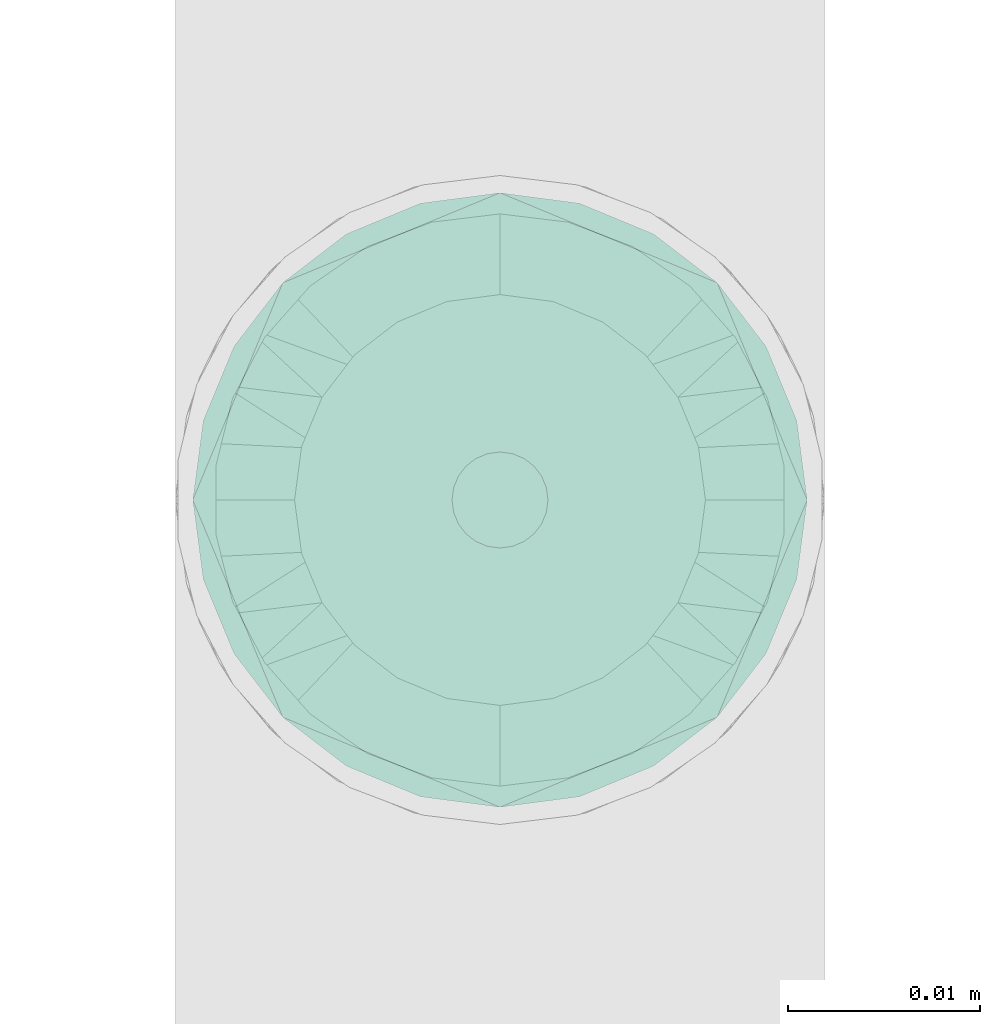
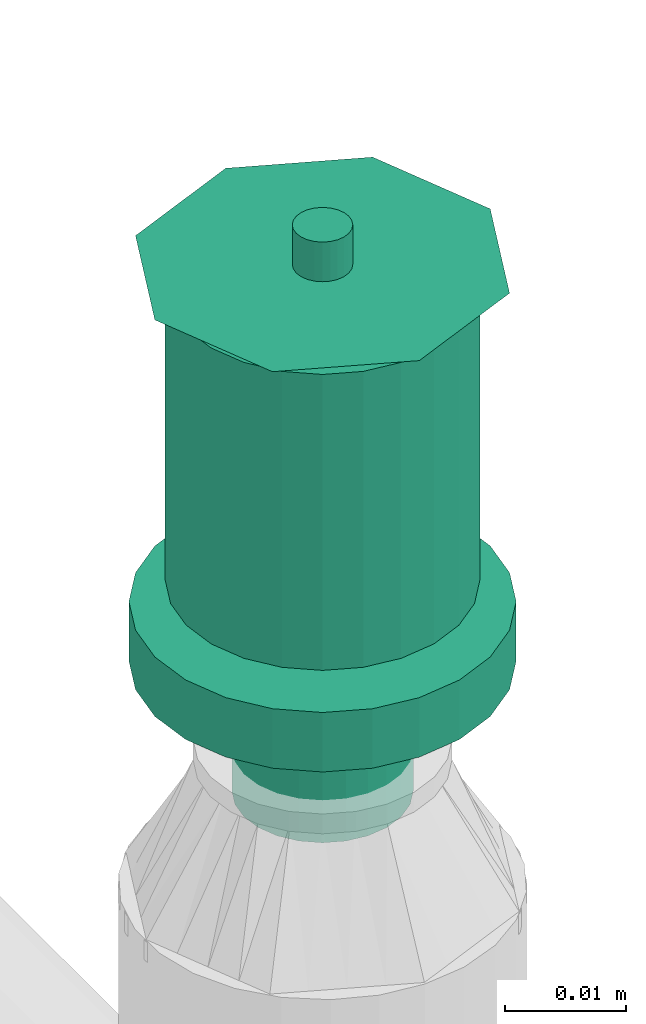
# One storey, part 15 of 31: 1 flow terminal.
"""IFC2X3 building model written with IfcOpenShell, lengths in millimetres."""

from ifc_helpers import new_model, entity, si_unit, converted_unit, derived_unit, direction, frame, origin_with_axes, place, context, subcontext, project, spatial, open_shell, surface_model, source, transform, mapped, type_object, element, save


model = new_model("IFC2X3")

# Units and contexts
model_context = context("Model", 3, precision=0.01, world=frame((0.0, 4.29681676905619e-09, 0.0)), true_north=direction((4.01073788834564e-13, 1.0)))
plan_context = context("Plan", 3, precision=0.01, world=frame((0.0, 4.29681676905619e-09, 0.0)), true_north=direction((4.01073788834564e-13, 1.0)))
body_context = subcontext(model_context, "Body", "Model", "MODEL_VIEW")
ifc_project = project(units=[converted_unit("PLANEANGLEUNIT", "DEGREE", entity("IfcPositiveLengthMeasure", 0.0174532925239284), si_unit("PLANEANGLEUNIT", "RADIAN"), dimensions=[0, 0, 0, 0, 0, 0, 0]), si_unit("AREAUNIT", "SQUARE_METRE"), si_unit("LENGTHUNIT", "METRE", prefix="MILLI"), si_unit("MASSUNIT", "GRAM", prefix="KILO"), si_unit("POWERUNIT", "WATT"), si_unit("PRESSUREUNIT", "PASCAL", prefix="KILO"), si_unit("FORCEUNIT", "NEWTON", prefix="KILO"), si_unit("ELECTRICVOLTAGEUNIT", "VOLT"), si_unit("ELECTRICCURRENTUNIT", "AMPERE"), si_unit("THERMODYNAMICTEMPERATUREUNIT", "DEGREE_CELSIUS"), si_unit("TIMEUNIT", "SECOND"), si_unit("VOLUMEUNIT", "CUBIC_METRE"), derived_unit("LINEARVELOCITYUNIT", [(si_unit("LENGTHUNIT", "METRE"), 1), (si_unit("TIMEUNIT", "SECOND"), -1)]), derived_unit("VOLUMETRICFLOWRATEUNIT", [(si_unit("VOLUMEUNIT", "CUBIC_METRE"), 1), (si_unit("TIMEUNIT", "SECOND"), -1)]), derived_unit("THERMALTRANSMITTANCEUNIT", [(si_unit("POWERUNIT", "WATT"), 1), (si_unit("THERMODYNAMICTEMPERATUREUNIT", "KELVIN"), -1), (si_unit("AREAUNIT", "SQUARE_METRE"), -1)]), derived_unit("SOUNDPRESSUREUNIT", [(si_unit("PRESSUREUNIT", "PASCAL"), 1)])], contexts=[model_context, plan_context])

# Site, building, storey
site_placement = place(None, frame((0.0, -4.29681676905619e-09, 0.0), z_axis=(0.0, 0.0, 1.0), x_axis=(1.0, 0.0, 0.0)))
site = spatial("IfcSite", under=ifc_project, at=site_placement, CompositionType="ELEMENT")
building_placement = place(site_placement, frame((0.0, 4.29681676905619e-09, 0.0), z_axis=(0.0, 0.0, 1.0), x_axis=(1.0, 0.0, 0.0)))
building = spatial("IfcBuilding", under=site, at=building_placement, Name="mc-building", CompositionType="ELEMENT")
storey_placement = place(building_placement, frame((0.0, 0.0, 200300.0), z_axis=(0.0, 0.0, 1.0), x_axis=(1.0, 0.0, 0.0)))
storey = spatial("IfcBuildingStorey", under=building, at=storey_placement, Name="Nivå C", CompositionType="ELEMENT", Elevation=200300.0)

# Flow terminal
fire_suppression_terminal_type = type_object("IfcFireSuppressionTerminalType", Name="68DGR-STD-STÅENDE", PredefinedType="NOTDEFINED")
shared_shape = source(origin_with_axes(), body_context, "Body", "SurfaceModel", [
    surface_model("IfcShellBasedSurfaceModel", [(12.55704, 3.36465, 21.14766), (13.0, 0.0, 21.14766), (12.55704, -3.36465, 21.14766), (-12.55704, -3.36465, 21.14766), (-11.25833, -6.5, 21.14766), (-11.25833, -6.5, 51.0), (3.36465, -12.55704, 51.0), (3.36465, -12.55704, 21.14766), (6.5, -11.25833, 21.14766), (9.19239, -9.19239, 21.14766), (11.25833, -6.5, 21.14766), (9.19239, -9.19239, 51.0), (6.5, -11.25833, 51.0), (11.25833, -6.5, 51.0), (12.55704, -3.36465, 51.0), (13.0, 0.0, 51.0), (9.19239, 9.19239, 51.0), (11.25833, 6.5, 21.14766), (9.19239, 9.19239, 21.14766), (11.25833, 6.5, 51.0), (12.55704, 3.36465, 51.0), (6.5, 11.25833, 51.0), (6.5, 11.25833, 21.14766), (3.36465, 12.55704, 21.14766), (3.36465, 12.55704, 51.0), (-11.25833, 6.5, 51.0), (-11.25833, 6.5, 21.14766), (-12.55704, 3.36465, 21.14766), (0.0, -2.5, 51.0), (-2.5, 0.0, 51.0), (0.0, 2.5, 51.0), (2.5, 0.0, 51.0), (11.31371, 11.31371, 53.0), (-11.31371, 11.31371, 53.0), (-11.31371, -11.31371, 53.0), (11.31371, -11.31371, 53.0), (1.62635, 1.62635, 51.0), (2.16506, 1.25, 51.0), (1.99186, 1.15, 51.0), (-1.76777, 1.76777, 51.0), (-1.25, 2.16506, 51.0), (-1.62635, 1.62635, 51.0), (1.99186, -1.15, 51.0), (2.16506, -1.25, 51.0), (1.62635, -1.62635, 51.0), (-1.62635, -1.62635, 51.0), (-1.25, -2.16506, 51.0), (-1.76777, -1.76777, 51.0), (0.0, 7.3, 0.0), (1.94114, 7.24444, 0.0), (1.88938, 7.05126, 0.0), (5.16188, 5.16188, 0.0), (6.49519, 3.75, 0.0), (6.32199, 3.65, 0.0), (-5.3033, 5.3033, 0.0), (-3.75, 6.49519, 0.0), (-5.16188, 5.16188, 0.0), (6.32199, -3.65, 0.0), (6.49519, -3.75, 0.0), (5.16188, -5.16188, 0.0), (1.88938, -7.05126, 0.0), (1.94114, -7.24444, 0.0), (0.0, -7.3, 0.0), (-5.16188, -5.16188, 0.0), (-3.75, -6.49519, 0.0), (-5.3033, -5.3033, 0.0), (-3.36465, 12.55704, 51.0), (-6.5, 11.25833, 51.0), (0.0, 13.0, 51.0), (-9.19239, 9.19239, 51.0), (0.0, -13.0, 51.0), (-9.19239, -9.19239, 51.0), (-12.55704, -3.36465, 51.0), (-6.5, -11.25833, 51.0), (-3.36465, -12.55704, 51.0), (-7.5, 0.0, -0.1), (-7.24444, 1.94114, 0.1), (-7.24444, 1.94114, -0.1), (-6.49519, 3.75, 0.1), (-6.49519, 3.75, -0.1), (-3.75, 6.49519, -0.1), (-5.3033, 5.3033, -0.1), (-3.75, 6.49519, 0.1), (-5.3033, 5.3033, 0.1), (-1.94114, 7.24444, -0.1), (-1.94114, 7.24444, 0.1), (-7.5, 0.0, 0.1), (0.0, 7.5, 0.1), (0.0, 7.5, -0.1), (1.94114, 7.24444, 0.1), (1.94114, 7.24444, -0.1), (3.75, 6.49519, 0.1), (3.75, 6.49519, -0.1), (6.49519, 3.75, -0.1), (5.3033, 5.3033, -0.1), (6.49519, 3.75, 0.1), (5.3033, 5.3033, 0.1), (7.24444, 1.94114, -0.1), (7.24444, 1.94114, 0.1), (7.5, 0.0, 0.1), (7.5, 0.0, -0.1), (-7.24444, -1.94114, 0.1), (7.24444, -1.94114, 0.1), (5.3033, -5.3033, 0.1), (6.49519, -3.75, 0.1), (-6.49519, -3.75, 0.1), (0.0, -7.5, 0.1), (1.94114, -7.24444, 0.1), (3.75, -6.49519, 0.1), (-3.75, -6.49519, 0.1), (-1.94114, -7.24444, 0.1), (-5.3033, -5.3033, 0.1), (0.0, -7.5, -0.1), (-6.49519, -3.75, -0.1), (1.94114, -7.24444, -0.1), (3.75, -6.49519, -0.1), (5.3033, -5.3033, -0.1), (7.24444, -1.94114, -0.1), (6.49519, -3.75, -0.1), (-3.75, -6.49519, -0.1), (-5.3033, -5.3033, -0.1), (-1.94114, -7.24444, -0.1), (-7.24444, -1.94114, -0.1), (16.0, 0.0, 53.0), (0.0, -16.0, 53.0), (-16.0, 0.0, 53.0), (0.0, 16.0, 53.0), (0.64705, 2.41481, 57.0), (0.0, 2.5, 57.0), (1.25, 2.16506, 57.0), (-2.5, 0.0, 57.0), (1.76777, 1.76777, 57.0), (2.41481, 0.64705, 57.0), (2.16506, 1.25, 57.0), (-0.64705, 2.41481, 57.0), (-1.25, 2.16506, 57.0), (-1.76777, 1.76777, 57.0), (-2.16506, 1.25, 57.0), (-2.41481, 0.64705, 57.0), (2.5, 0.0, 57.0), (1.76777, -1.76777, 57.0), (2.16506, -1.25, 57.0), (2.41481, -0.64705, 57.0), (-2.41481, -0.64705, 57.0), (0.64705, -2.41481, 57.0), (1.25, -2.16506, 57.0), (0.0, -2.5, 57.0), (-1.76777, -1.76777, 57.0), (-2.16506, -1.25, 57.0), (-1.25, -2.16506, 57.0), (-0.64705, -2.41481, 57.0), (1.15, -1.99186, 51.0), (1.76777, -1.76777, 51.0), (1.25, -2.16506, 51.0), (0.59528, -2.22163, 51.0), (0.0, -2.3, 51.0), (0.64705, -2.41481, 51.0), (2.22163, -0.59528, 51.0), (2.3, 0.0, 51.0), (2.41481, -0.64705, 51.0), (-0.64705, -2.41481, 51.0), (-0.59528, -2.22163, 51.0), (-1.15, -1.99186, 51.0), (-2.16506, -1.25, 51.0), (-1.99186, -1.15, 51.0), (-2.22163, -0.59528, 51.0), (-2.3, 0.0, 51.0), (-2.41481, -0.64705, 51.0), (2.22163, 0.59528, 51.0), (2.41481, 0.64705, 51.0), (1.76777, 1.76777, 51.0), (1.15, 1.99186, 51.0), (1.25, 2.16506, 51.0), (0.59528, 2.22163, 51.0), (0.0, 2.3, 51.0), (0.64705, 2.41481, 51.0), (-1.99186, 1.15, 51.0), (-2.16506, 1.25, 51.0), (-2.41481, 0.64705, 51.0), (-2.22163, 0.59528, 51.0), (-0.64705, 2.41481, 51.0), (-0.59528, 2.22163, 51.0), (-1.15, 1.99186, 51.0), (-2.22163, 0.59528, 56.8), (-1.99186, 1.15, 56.8), (-1.15, 1.99186, 56.8), (-1.62635, 1.62635, 56.8), (-0.59528, 2.22163, 56.8), (-2.3, 0.0, 56.8), (0.0, 2.3, 56.8), (0.59528, 2.22163, 56.8), (1.15, 1.99186, 56.8), (1.99186, 1.15, 56.8), (1.62635, 1.62635, 56.8), (2.22163, 0.59528, 56.8), (2.3, 0.0, 56.8), (2.22163, -0.59528, 56.8), (1.99186, -1.15, 56.8), (1.62635, -1.62635, 56.8), (1.15, -1.99186, 56.8), (0.59528, -2.22163, 56.8), (0.0, -2.3, 56.8), (-1.99186, -1.15, 56.8), (-2.22163, -0.59528, 56.8), (-1.62635, -1.62635, 56.8), (-0.59528, -2.22163, 56.8), (-1.15, -1.99186, 56.8), (8.0, -13.85641, 13.0), (4.1411, -15.45481, 13.0), (0.0, -16.0, 13.0), (-4.1411, -15.45481, 13.0), (15.45481, -4.1411, 13.0), (13.85641, -8.0, 13.0), (11.31371, -11.31371, 13.0), (-16.0, 0.0, 13.0), (-8.0, -13.85641, 13.0), (-11.31371, -11.31371, 13.0), (-13.85641, -8.0, 13.0), (-15.45481, -4.1411, 13.0), (15.45481, 4.1411, 13.0), (4.1411, 15.45481, 13.0), (13.85641, 8.0, 13.0), (8.0, 13.85641, 13.0), (11.31371, 11.31371, 13.0), (-15.45481, 4.1411, 13.0), (-11.31371, 11.31371, 13.0), (-8.0, 13.85641, 13.0), (-13.85641, 8.0, 13.0), (-4.1411, 15.45481, 13.0), (0.0, 16.0, 13.0), (16.0, 0.0, 13.0), (7.05126, 1.88938, 12.8), (1.88938, 7.05126, 12.8), (3.65, 6.32199, 12.8), (6.32199, 3.65, 12.8), (5.16188, 5.16188, 12.8), (7.3, 0.0, 12.8), (0.0, 7.3, 12.8), (-3.65, 6.32199, 12.8), (-1.88938, 7.05126, 12.8), (-5.16188, 5.16188, 12.8), (-7.05126, 1.88938, 12.8), (-6.32199, 3.65, 12.8), (7.05126, -1.88938, 12.8), (0.0, -7.3, 12.8), (6.32199, -3.65, 12.8), (3.65, -6.32199, 12.8), (5.16188, -5.16188, 12.8), (1.88938, -7.05126, 12.8), (-7.3, 0.0, 12.8), (-6.32199, -3.65, 12.8), (-7.05126, -1.88938, 12.8), (-1.88938, -7.05126, 12.8), (-5.16188, -5.16188, 12.8), (-3.65, -6.32199, 12.8), (-7.05126, 1.88938, 0.0), (-7.3, 0.0, 0.0), (-6.32199, 3.65, 0.0), (-3.65, 6.32199, 0.0), (-1.88938, 7.05126, 0.0), (3.65, 6.32199, 0.0), (7.05126, 1.88938, 0.0), (7.3, 0.0, 0.0), (3.75, 6.49519, 13.0), (1.94114, 7.24444, 13.0), (7.5, 0.0, 13.0), (5.3033, 5.3033, 13.0), (7.24444, 1.94114, 13.0), (6.49519, 3.75, 13.0), (-5.3033, 5.3033, 13.0), (-7.24444, -1.94114, 13.0), (-1.94114, 7.24444, 13.0), (-3.75, 6.49519, 13.0), (0.0, 7.5, 13.0), (-6.49519, 3.75, 13.0), (-7.24444, 1.94114, 13.0), (7.24444, -1.94114, 13.0), (5.3033, -5.3033, 13.0), (6.49519, -3.75, 13.0), (-6.49519, -3.75, 13.0), (0.0, -7.5, 13.0), (1.94114, -7.24444, 13.0), (3.75, -6.49519, 13.0), (-7.5, 0.0, 13.0), (-3.75, -6.49519, 13.0), (-1.94114, -7.24444, 13.0), (-5.3033, -5.3033, 13.0), (3.65, -6.32199, 0.0), (5.3033, -5.3033, 0.0), (3.75, -6.49519, 0.0), (0.0, -7.5, 0.0), (7.05126, -1.88938, 0.0), (7.24444, -1.94114, 0.0), (7.5, 0.0, 0.0), (-1.94114, -7.24444, 0.0), (-1.88938, -7.05126, 0.0), (-3.65, -6.32199, 0.0), (-6.49519, -3.75, 0.0), (-6.32199, -3.65, 0.0), (-7.05126, -1.88938, 0.0), (-7.24444, -1.94114, 0.0), (-7.5, 0.0, 0.0), (7.24444, 1.94114, 0.0), (5.3033, 5.3033, 0.0), (3.75, 6.49519, 0.0), (0.0, 7.5, 0.0), (-6.49519, 3.75, 0.0), (-7.24444, 1.94114, 0.0), (-1.94114, 7.24444, 0.0), (-12.55704, 3.36465, 51.0), (-13.0, 0.0, 51.0), (0.0, -13.0, 21.14766), (-3.36465, -12.55704, 21.14766), (-6.5, -11.25833, 21.14766), (-9.19239, -9.19239, 21.14766), (-13.0, 0.0, 21.14766), (-9.19239, 9.19239, 21.14766), (-6.5, 11.25833, 21.14766), (-3.36465, 12.55704, 21.14766), (0.0, 13.0, 21.14766), (11.31371, 11.31371, 19.0), (8.0, 13.85641, 19.0), (4.1411, 15.45481, 19.0), (-8.0, 13.85641, 19.0), (16.0, 0.0, 19.0), (15.45481, 4.1411, 19.0), (13.85641, 8.0, 19.0), (-4.1411, 15.45481, 19.0), (0.0, 16.0, 19.0), (-11.31371, 11.31371, 19.0), (-13.85641, 8.0, 19.0), (-15.45481, 4.1411, 19.0), (15.45481, -4.1411, 19.0), (11.31371, -11.31371, 19.0), (13.85641, -8.0, 19.0), (-16.0, 0.0, 19.0), (0.0, -16.0, 19.0), (4.1411, -15.45481, 19.0), (8.0, -13.85641, 19.0), (-13.85641, -8.0, 19.0), (-11.31371, -11.31371, 19.0), (-15.45481, -4.1411, 19.0), (-8.0, -13.85641, 19.0), (-4.1411, -15.45481, 19.0)], [open_shell([[[0, 1, 2]], [[3, 4, 5]], [[6, 7, 8]], [[9, 10, 11]], [[9, 11, 12]], [[10, 13, 11]], [[14, 13, 2]], [[1, 15, 14]], [[16, 17, 18]], [[0, 19, 20]], [[20, 15, 1]], [[21, 16, 18]], [[22, 23, 24]], [[16, 19, 17]], [[25, 26, 27]], [[28, 29, 30]], [[30, 31, 28]], [[31, 30, 32]], [[33, 30, 29]], [[29, 28, 34]], [[35, 28, 31]], [[36, 37, 38]], [[39, 40, 41]], [[42, 43, 44]], [[45, 46, 47]], [[48, 49, 50]], [[51, 52, 53]], [[54, 55, 56]], [[57, 58, 59]], [[60, 61, 62]], [[63, 64, 65]], [[66, 67, 68]], [[67, 24, 68]], [[69, 25, 67]], [[15, 20, 14]], [[70, 6, 12]], [[5, 71, 72]], [[73, 74, 71]], [[72, 71, 74]], [[75, 76, 77]], [[77, 78, 79]], [[80, 81, 82]], [[83, 81, 79]], [[84, 80, 85]], [[76, 78, 77]], [[75, 86, 76]], [[80, 82, 85]], [[82, 81, 83]], [[79, 78, 83]], [[84, 85, 87]], [[87, 88, 84]], [[88, 89, 90]], [[90, 91, 92]], [[93, 94, 95]], [[96, 94, 92]], [[97, 93, 98]], [[91, 96, 92]], [[90, 89, 91]], [[97, 98, 99]], [[98, 93, 95]], [[94, 96, 95]], [[97, 99, 100]], [[87, 89, 88]], [[91, 89, 99]], [[96, 91, 98]], [[91, 99, 98]], [[95, 96, 98]], [[89, 83, 101]], [[85, 82, 87]], [[83, 87, 82]], [[78, 76, 83]], [[89, 87, 83]], [[76, 101, 83]], [[102, 99, 89]], [[103, 104, 102]], [[89, 105, 103]], [[103, 106, 107]], [[108, 103, 107]], [[106, 103, 105]], [[89, 101, 105]], [[101, 76, 86]], [[109, 110, 111]], [[105, 111, 110]], [[106, 105, 110]], [[103, 102, 89]], [[112, 113, 114]], [[115, 114, 116]], [[117, 118, 116]], [[113, 116, 114]], [[116, 113, 117]], [[119, 120, 121]], [[113, 121, 120]], [[121, 113, 112]], [[113, 122, 117]], [[75, 77, 122]], [[100, 117, 122]], [[100, 81, 97]], [[93, 97, 90]], [[90, 92, 94]], [[93, 90, 94]], [[90, 97, 81]], [[79, 81, 77]], [[77, 81, 122]], [[84, 88, 80]], [[81, 80, 88]], [[81, 88, 90]], [[100, 122, 81]], [[100, 102, 117]], [[117, 104, 118]], [[115, 116, 108]], [[103, 116, 118]], [[114, 115, 107]], [[102, 104, 117]], [[100, 99, 102]], [[115, 108, 107]], [[108, 116, 103]], [[118, 104, 103]], [[114, 107, 106]], [[106, 112, 114]], [[112, 110, 121]], [[121, 109, 119]], [[113, 120, 105]], [[111, 120, 119]], [[122, 113, 101]], [[109, 111, 119]], [[121, 110, 109]], [[122, 101, 86]], [[101, 113, 105]], [[120, 111, 105]], [[122, 86, 75]], [[106, 110, 112]], [[31, 123, 35]], [[35, 124, 28]], [[124, 34, 28]], [[29, 34, 125]], [[33, 32, 126]], [[33, 125, 124]], [[124, 32, 33]], [[124, 35, 123]], [[124, 125, 34]], [[123, 32, 124]], [[29, 125, 33]], [[33, 126, 30]], [[126, 32, 30]], [[31, 32, 123]], [[127, 128, 129]], [[129, 130, 131]], [[132, 131, 130]], [[133, 131, 132]], [[130, 129, 128]], [[134, 135, 128]], [[136, 128, 135]], [[137, 138, 136]], [[128, 136, 130]], [[138, 130, 136]], [[139, 132, 130]], [[140, 141, 142]], [[143, 140, 139]], [[144, 140, 143]], [[145, 140, 144]], [[146, 144, 147]], [[139, 130, 143]], [[143, 148, 144]], [[149, 150, 147]], [[144, 148, 147]], [[146, 147, 150]], [[140, 142, 139]], [[151, 152, 153]], [[154, 151, 153]], [[155, 154, 156]], [[153, 156, 154]], [[28, 155, 156]], [[44, 152, 151]], [[157, 158, 159]], [[31, 159, 158]], [[43, 157, 159]], [[152, 44, 43]], [[157, 43, 42]], [[160, 161, 28]], [[161, 155, 28]], [[162, 161, 160]], [[160, 46, 162]], [[162, 46, 45]], [[47, 163, 164]], [[165, 164, 163]], [[45, 47, 164]], [[166, 165, 167]], [[163, 167, 165]], [[29, 166, 167]], [[168, 169, 31]], [[38, 169, 168]], [[169, 38, 37]], [[170, 37, 36]], [[171, 172, 170]], [[173, 172, 171]], [[174, 175, 173]], [[172, 173, 175]], [[30, 175, 174]], [[170, 36, 171]], [[39, 176, 177]], [[41, 176, 39]], [[178, 177, 176]], [[178, 179, 29]], [[176, 179, 178]], [[179, 166, 29]], [[180, 30, 181]], [[182, 180, 181]], [[182, 41, 40]], [[180, 182, 40]], [[181, 30, 174]], [[31, 158, 168]], [[29, 138, 178]], [[178, 137, 177]], [[40, 39, 135]], [[136, 39, 177]], [[180, 40, 134]], [[138, 137, 178]], [[29, 130, 138]], [[40, 135, 134]], [[135, 39, 136]], [[177, 137, 136]], [[180, 134, 128]], [[128, 30, 180]], [[30, 127, 175]], [[175, 129, 172]], [[37, 170, 133]], [[131, 170, 172]], [[169, 37, 132]], [[129, 131, 172]], [[175, 127, 129]], [[169, 132, 139]], [[132, 37, 133]], [[170, 131, 133]], [[169, 139, 31]], [[128, 127, 30]], [[179, 183, 166]], [[176, 184, 179]], [[185, 41, 182]], [[176, 41, 186]], [[187, 182, 181]], [[179, 184, 183]], [[183, 188, 166]], [[187, 185, 182]], [[186, 41, 185]], [[186, 184, 176]], [[189, 187, 181]], [[181, 174, 189]], [[173, 190, 174]], [[171, 191, 173]], [[192, 36, 38]], [[171, 36, 193]], [[194, 38, 168]], [[171, 193, 191]], [[191, 190, 173]], [[195, 194, 168]], [[192, 38, 194]], [[192, 193, 36]], [[158, 195, 168]], [[174, 190, 189]], [[31, 142, 159]], [[159, 141, 43]], [[153, 152, 145]], [[140, 152, 43]], [[156, 153, 144]], [[142, 141, 159]], [[31, 139, 142]], [[153, 145, 144]], [[145, 152, 140]], [[43, 141, 140]], [[156, 144, 146]], [[146, 28, 156]], [[28, 150, 160]], [[160, 149, 46]], [[163, 47, 148]], [[147, 47, 46]], [[167, 163, 143]], [[149, 147, 46]], [[160, 150, 149]], [[167, 143, 130]], [[143, 163, 148]], [[47, 147, 148]], [[167, 130, 29]], [[146, 150, 28]], [[190, 191, 193]], [[190, 193, 195]], [[194, 195, 193]], [[194, 193, 192]], [[190, 195, 186]], [[189, 185, 187]], [[185, 189, 186]], [[186, 183, 184]], [[186, 189, 190]], [[186, 196, 183]], [[186, 195, 196]], [[196, 197, 198]], [[196, 198, 199]], [[199, 200, 201]], [[199, 201, 196]], [[196, 201, 202]], [[188, 202, 203]], [[183, 202, 188]], [[204, 205, 206]], [[205, 204, 202]], [[201, 205, 202]], [[202, 183, 196]], [[157, 196, 158]], [[42, 197, 157]], [[199, 44, 151]], [[42, 44, 198]], [[200, 151, 154]], [[157, 197, 196]], [[196, 195, 158]], [[200, 199, 151]], [[198, 44, 199]], [[198, 197, 42]], [[201, 200, 154]], [[154, 155, 201]], [[161, 205, 155]], [[162, 206, 161]], [[202, 45, 164]], [[162, 45, 204]], [[203, 164, 165]], [[162, 204, 206]], [[206, 205, 161]], [[188, 203, 165]], [[202, 164, 203]], [[202, 204, 45]], [[166, 188, 165]], [[155, 205, 201]], [[207, 208, 209]], [[207, 209, 210]], [[211, 212, 213]], [[213, 207, 214]], [[211, 213, 214]], [[215, 216, 210]], [[217, 210, 216]], [[217, 218, 210]], [[218, 207, 210]], [[218, 214, 207]], [[214, 219, 211]], [[220, 219, 214]], [[221, 219, 220]], [[220, 222, 223]], [[221, 220, 223]], [[214, 224, 220]], [[225, 226, 227]], [[224, 227, 226]], [[228, 229, 226]], [[220, 224, 226]], [[226, 229, 220]], [[219, 230, 211]], [[231, 232, 233]], [[234, 233, 235]], [[231, 236, 232]], [[231, 233, 234]], [[232, 236, 237]], [[237, 238, 239]], [[238, 237, 240]], [[240, 241, 242]], [[240, 237, 236]], [[236, 241, 240]], [[236, 243, 241]], [[244, 243, 245]], [[246, 245, 247]], [[246, 248, 244]], [[246, 244, 245]], [[243, 244, 249]], [[249, 250, 251]], [[250, 249, 252]], [[253, 252, 254]], [[252, 253, 250]], [[249, 244, 252]], [[243, 249, 241]], [[255, 241, 256]], [[257, 242, 255]], [[238, 56, 258]], [[257, 56, 240]], [[239, 258, 259]], [[255, 242, 241]], [[241, 249, 256]], [[239, 238, 258]], [[240, 56, 238]], [[240, 242, 257]], [[237, 239, 259]], [[259, 48, 237]], [[50, 232, 48]], [[260, 233, 50]], [[234, 51, 53]], [[260, 51, 235]], [[231, 53, 261]], [[260, 235, 233]], [[233, 232, 50]], [[236, 231, 261]], [[234, 53, 231]], [[234, 235, 51]], [[262, 236, 261]], [[48, 232, 237]], [[263, 264, 265]], [[266, 263, 267]], [[263, 265, 267]], [[268, 266, 267]], [[264, 269, 270]], [[271, 272, 273]], [[269, 273, 272]], [[274, 275, 269]], [[264, 273, 269]], [[275, 270, 269]], [[276, 265, 264]], [[277, 278, 276]], [[264, 279, 277]], [[277, 280, 281]], [[282, 277, 281]], [[280, 277, 279]], [[264, 270, 279]], [[270, 275, 283]], [[284, 285, 286]], [[279, 286, 285]], [[280, 279, 285]], [[277, 276, 264]], [[287, 288, 289]], [[60, 287, 289]], [[290, 62, 61]], [[289, 61, 60]], [[59, 288, 287]], [[291, 262, 292]], [[293, 292, 262]], [[58, 291, 292]], [[288, 59, 58]], [[291, 58, 57]], [[294, 295, 290]], [[296, 295, 294]], [[294, 64, 296]], [[64, 63, 296]], [[295, 62, 290]], [[65, 297, 298]], [[299, 298, 297]], [[63, 65, 298]], [[256, 299, 300]], [[297, 300, 299]], [[301, 256, 300]], [[261, 302, 293]], [[53, 302, 261]], [[302, 53, 52]], [[303, 52, 51]], [[260, 304, 303]], [[50, 304, 260]], [[304, 50, 49]], [[305, 49, 48]], [[303, 51, 260]], [[54, 257, 306]], [[56, 257, 54]], [[307, 306, 257]], [[307, 255, 301]], [[257, 255, 307]], [[255, 256, 301]], [[308, 305, 259]], [[258, 308, 259]], [[55, 258, 56]], [[308, 258, 55]], [[259, 305, 48]], [[293, 262, 261]], [[301, 275, 307]], [[307, 274, 306]], [[55, 54, 272]], [[269, 54, 306]], [[308, 55, 271]], [[275, 274, 307]], [[301, 283, 275]], [[55, 272, 271]], [[272, 54, 269]], [[306, 274, 269]], [[308, 271, 273]], [[273, 305, 308]], [[305, 264, 49]], [[49, 263, 304]], [[52, 303, 268]], [[266, 303, 304]], [[302, 52, 267]], [[263, 266, 304]], [[49, 264, 263]], [[302, 267, 265]], [[267, 52, 268]], [[303, 266, 268]], [[302, 265, 293]], [[273, 264, 305]], [[293, 276, 292]], [[292, 278, 58]], [[289, 288, 282]], [[277, 288, 58]], [[61, 289, 281]], [[276, 278, 292]], [[293, 265, 276]], [[289, 282, 281]], [[282, 288, 277]], [[58, 278, 277]], [[61, 281, 280]], [[280, 290, 61]], [[290, 285, 294]], [[294, 284, 64]], [[297, 65, 279]], [[286, 65, 64]], [[300, 297, 270]], [[284, 286, 64]], [[294, 285, 284]], [[300, 270, 283]], [[270, 297, 279]], [[65, 286, 279]], [[300, 283, 301]], [[280, 285, 290]], [[291, 243, 262]], [[57, 245, 291]], [[246, 59, 287]], [[57, 59, 247]], [[248, 287, 60]], [[291, 245, 243]], [[243, 236, 262]], [[248, 246, 287]], [[247, 59, 246]], [[247, 245, 57]], [[244, 248, 60]], [[60, 62, 244]], [[295, 252, 62]], [[296, 254, 295]], [[250, 63, 298]], [[296, 63, 253]], [[251, 298, 299]], [[296, 253, 254]], [[254, 252, 295]], [[249, 251, 299]], [[250, 298, 251]], [[250, 253, 63]], [[256, 249, 299]], [[62, 252, 244]], [[16, 21, 24]], [[20, 16, 24]], [[24, 67, 72]], [[19, 16, 20]], [[24, 72, 20]], [[25, 72, 67]], [[309, 310, 25]], [[11, 13, 14]], [[72, 11, 20]], [[74, 12, 11]], [[12, 74, 70]], [[72, 25, 310]], [[72, 74, 11]], [[11, 14, 20]], [[8, 7, 311]], [[8, 311, 312]], [[2, 10, 9]], [[3, 9, 8]], [[3, 26, 9]], [[313, 314, 312]], [[3, 312, 314]], [[4, 3, 314]], [[3, 8, 312]], [[315, 26, 3]], [[2, 9, 26]], [[0, 2, 26]], [[17, 0, 18]], [[23, 22, 18]], [[0, 23, 18]], [[23, 0, 26]], [[316, 317, 26]], [[26, 315, 27]], [[318, 319, 317]], [[23, 26, 317]], [[23, 317, 319]], [[316, 26, 25]], [[318, 317, 67]], [[69, 317, 316]], [[319, 318, 66]], [[310, 309, 315]], [[27, 315, 309]], [[25, 27, 309]], [[25, 69, 316]], [[317, 69, 67]], [[67, 66, 318]], [[66, 68, 319]], [[22, 21, 18]], [[0, 17, 19]], [[1, 0, 20]], [[68, 24, 23]], [[24, 21, 22]], [[319, 68, 23]], [[1, 14, 2]], [[2, 13, 10]], [[6, 311, 7]], [[6, 8, 12]], [[12, 8, 9]], [[6, 70, 311]], [[313, 312, 74]], [[313, 73, 314]], [[71, 4, 314]], [[315, 3, 72]], [[70, 74, 312]], [[74, 73, 313]], [[73, 71, 314]], [[71, 5, 4]], [[3, 5, 72]], [[72, 310, 315]], [[311, 70, 312]], [[320, 321, 322]], [[320, 322, 323]], [[320, 324, 325]], [[326, 320, 325]], [[324, 320, 323]], [[327, 323, 328]], [[323, 322, 328]], [[329, 330, 323]], [[331, 323, 330]], [[323, 331, 324]], [[331, 332, 324]], [[333, 334, 332]], [[335, 333, 331]], [[336, 337, 338]], [[335, 338, 333]], [[338, 335, 336]], [[339, 340, 341]], [[335, 341, 340]], [[342, 343, 340]], [[335, 340, 343]], [[343, 336, 335]], [[332, 331, 333]], [[214, 331, 224]], [[224, 330, 227]], [[226, 225, 323]], [[329, 225, 227]], [[228, 226, 327]], [[331, 330, 224]], [[214, 335, 331]], [[226, 323, 327]], [[323, 225, 329]], [[227, 330, 329]], [[228, 327, 328]], [[328, 229, 228]], [[229, 322, 220]], [[220, 321, 222]], [[221, 223, 326]], [[320, 223, 222]], [[219, 221, 325]], [[321, 320, 222]], [[220, 322, 321]], [[219, 325, 324]], [[325, 221, 326]], [[223, 320, 326]], [[219, 324, 230]], [[328, 322, 229]], [[230, 332, 211]], [[211, 334, 212]], [[207, 213, 338]], [[333, 213, 212]], [[208, 207, 337]], [[332, 334, 211]], [[230, 324, 332]], [[207, 338, 337]], [[338, 213, 333]], [[212, 334, 333]], [[208, 337, 336]], [[336, 209, 208]], [[209, 343, 210]], [[210, 342, 215]], [[217, 216, 339]], [[340, 216, 215]], [[218, 217, 341]], [[342, 340, 215]], [[210, 343, 342]], [[218, 341, 335]], [[341, 217, 339]], [[216, 340, 339]], [[218, 335, 214]], [[336, 343, 209]]])]),
])
flow_terminal_placement = place(storey_placement, frame((608500.0, 400928.19532, 2972.0), z_axis=(0.0, 0.0, 1.0), x_axis=(-1.0, 0.0, 0.0)))
element("IfcFlowTerminal", 1, at=flow_terminal_placement, inside=storey, type_object=fire_suppression_terminal_type, Name="68DGR-STD-STÅENDE", context=body_context, shape_type="MappedRepresentation", body=[
    mapped(shared_shape, transform((0.0, 0.0, 0.0), scale=1.0)),
])

save(model, "model.ifc")
